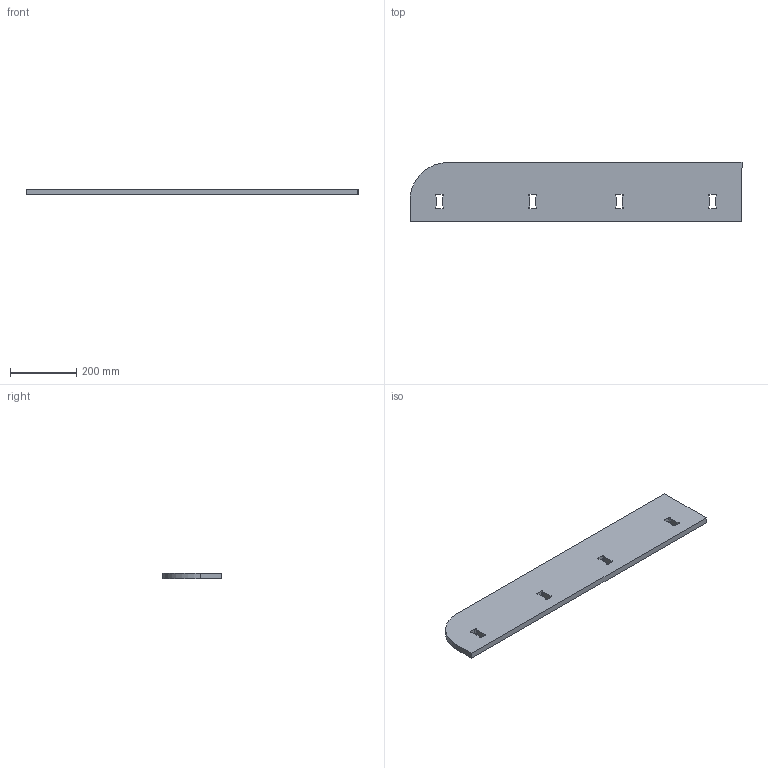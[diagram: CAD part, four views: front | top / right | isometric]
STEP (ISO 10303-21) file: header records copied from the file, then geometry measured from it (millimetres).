
FILE_DESCRIPTION (( 'STEP AP214' ), '1' );
FILE_NAME ('cote-lit.STEP', '2018-04-07T05:56:21', ( '' ), ( '' ), 'SwSTEP 2.0', 'SolidWorks 2017', '' );
FILE_SCHEMA (( 'AUTOMOTIVE_DESIGN' ));
Length unit declared in the file: millimetre
Products named in the file (1): cote-lit
Bounding box: 1000 x 177.8 x 18 mm (x, y, z)
Volume: 3087723.1 mm3; surface area: 394236.5 mm2
Topology: 1 solids, 1 shells, 63 faces, 183 edges, 122 vertices
Faces by surface type: plane 38, cylinder 25
Entity records: 2137 total; most frequent: CARTESIAN_POINT 369, ORIENTED_EDGE 366, DIRECTION 361, EDGE_CURVE 183, LINE 133, VECTOR 133, VERTEX_POINT 122, AXIS2_PLACEMENT_3D 114
